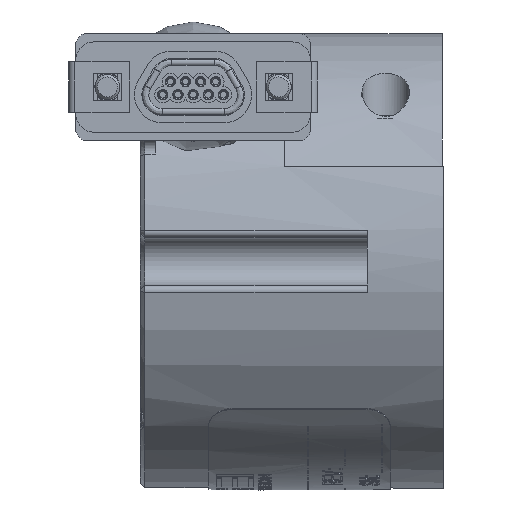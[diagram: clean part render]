
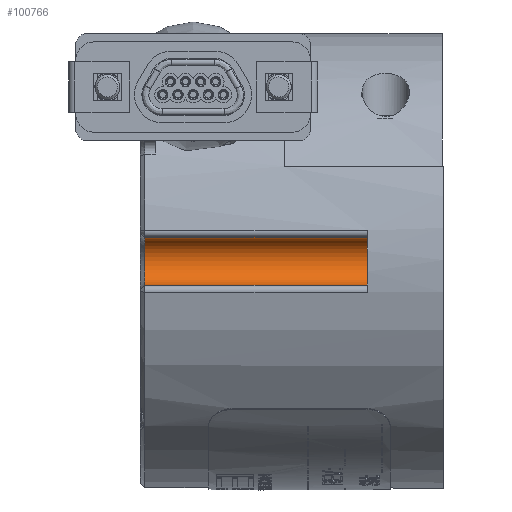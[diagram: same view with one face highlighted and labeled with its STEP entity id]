
A CAD part, left-side view. The second image highlights one B-rep face of the part: STEP entity #100766.
In plain terms, the highlighted cylindrical face has radius 2.007 mm (diameter 4.013 mm), a partial arc.
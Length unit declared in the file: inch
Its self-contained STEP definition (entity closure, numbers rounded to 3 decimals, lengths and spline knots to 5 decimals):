
#2309 = CARTESIAN_POINT ( 'NONE',  ( -0.68, 0.985, 0. ) ) ;
#11258 = VERTEX_POINT ( 'NONE', #74787 ) ;
#17657 = EDGE_CURVE ( 'NONE', #11258, #129237, #60389, .T. ) ;
#18809 = CARTESIAN_POINT ( 'NONE',  ( -0.68, 0.25, -0.079 ) ) ;
#20657 = CARTESIAN_POINT ( 'NONE',  ( -0.68, 0.25, 0. ) ) ;
#23102 = EDGE_CURVE ( 'NONE', #11258, #134514, #76196, .T. ) ;
#24294 = FACE_OUTER_BOUND ( 'NONE', #78775, .T. ) ;
#27646 = LINE ( 'NONE', #79059, #125037 ) ;
#34673 = EDGE_CURVE ( 'NONE', #134514, #51643, #27646, .T. ) ;
#35388 = CARTESIAN_POINT ( 'NONE',  ( -0.68, 0.985, 0.079 ) ) ;
#40606 = DIRECTION ( 'NONE',  ( 0., 1., 0. ) ) ;
#43628 = ORIENTED_EDGE ( 'NONE', *, *, #48952, .T. ) ;
#44256 = CYLINDRICAL_SURFACE ( 'NONE', #53338, 0.079 ) ;
#47479 = AXIS2_PLACEMENT_3D ( 'NONE', #2309, #87744, #118586 ) ;
#48952 = EDGE_CURVE ( 'NONE', #129237, #51643, #115189, .T. ) ;
#49912 = AXIS2_PLACEMENT_3D ( 'NONE', #20657, #40606, #61768 ) ;
#51643 = VERTEX_POINT ( 'NONE', #134848 ) ;
#53338 = AXIS2_PLACEMENT_3D ( 'NONE', #86630, #97563, #126425 ) ;
#54686 = ORIENTED_EDGE ( 'NONE', *, *, #23102, .F. ) ;
#55614 = ORIENTED_EDGE ( 'NONE', *, *, #34673, .F. ) ;
#59124 = DIRECTION ( 'NONE',  ( 0., 1., 0. ) ) ;
#60389 = LINE ( 'NONE', #102216, #75733 ) ;
#61768 = DIRECTION ( 'NONE',  ( 0., 0., 1. ) ) ;
#74787 = CARTESIAN_POINT ( 'NONE',  ( -0.68, 0.25, 0.079 ) ) ;
#75733 = VECTOR ( 'NONE', #124164, 39.37008 ) ;
#76196 = CIRCLE ( 'NONE', #49912, 0.079 ) ;
#78775 = EDGE_LOOP ( 'NONE', ( #135293, #43628, #55614, #54686 ) ) ;
#79059 = CARTESIAN_POINT ( 'NONE',  ( -0.68, 0.07719, -0.079 ) ) ;
#86630 = CARTESIAN_POINT ( 'NONE',  ( -0.68, 0.95, 0. ) ) ;
#87744 = DIRECTION ( 'NONE',  ( 0., 1., 0. ) ) ;
#97563 = DIRECTION ( 'NONE',  ( 0., 1., 0. ) ) ;
#100766 = ADVANCED_FACE ( 'NONE', ( #24294 ), #44256, .F. ) ;
#102216 = CARTESIAN_POINT ( 'NONE',  ( -0.68, 0.07719, 0.079 ) ) ;
#115189 = CIRCLE ( 'NONE', #47479, 0.079 ) ;
#118586 = DIRECTION ( 'NONE',  ( 0., 0., -1. ) ) ;
#124164 = DIRECTION ( 'NONE',  ( 0., 1., 0. ) ) ;
#125037 = VECTOR ( 'NONE', #59124, 39.37008 ) ;
#126425 = DIRECTION ( 'NONE',  ( 0., 0., 1. ) ) ;
#129237 = VERTEX_POINT ( 'NONE', #35388 ) ;
#134514 = VERTEX_POINT ( 'NONE', #18809 ) ;
#134848 = CARTESIAN_POINT ( 'NONE',  ( -0.68, 0.985, -0.079 ) ) ;
#135293 = ORIENTED_EDGE ( 'NONE', *, *, #17657, .T. ) ;
